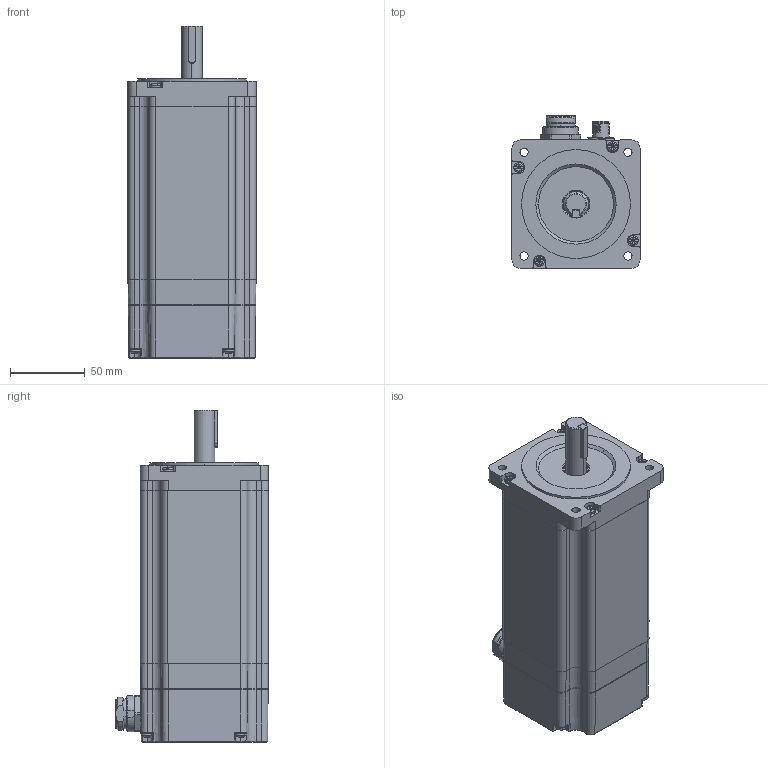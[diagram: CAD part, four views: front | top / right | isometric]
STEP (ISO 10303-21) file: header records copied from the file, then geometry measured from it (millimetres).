
FILE_DESCRIPTION (( 'STEP AP214' ), '1' );
FILE_NAME ('M86SH156-TM1611S05C.STEP', '2025-12-20T10:11:57', ( '' ), ( '' ), 'SwSTEP 2.0', 'SolidWorks 2019', '' );
FILE_SCHEMA (( 'AUTOMOTIVE_DESIGN' ));
Length unit declared in the file: millimetre
Products named in the file (1): M86SH156-TM1611S05C
Bounding box: 85.9 x 102.59 x 222.55 mm (x, y, z)
Volume: 762794.4 mm3; surface area: 207107.1 mm2
Topology: 29 solids, 29 shells, 2148 faces, 5575 edges, 3588 vertices
Faces by surface type: plane 1071, cylinder 471, bspline 323, cone 173, torus 94, sphere 16
Entity records: 105694 total; most frequent: CARTESIAN_POINT 30478, ORIENTED_EDGE 11072, DIRECTION 9910, EDGE_CURVE 5536, VERTEX_POINT 3588, AXIS2_PLACEMENT_3D 3379, VECTOR 3152, LINE 3152
